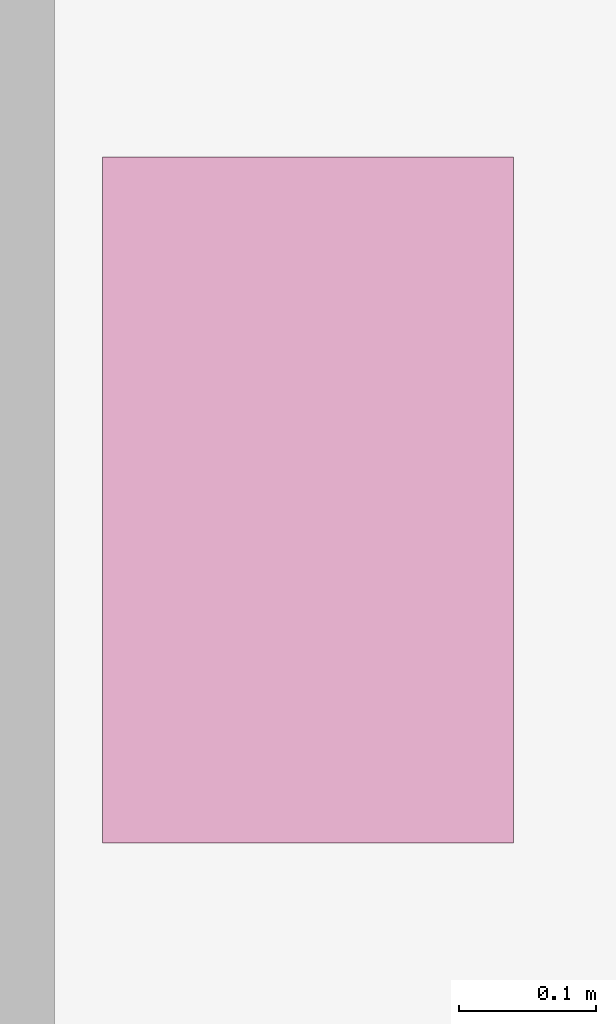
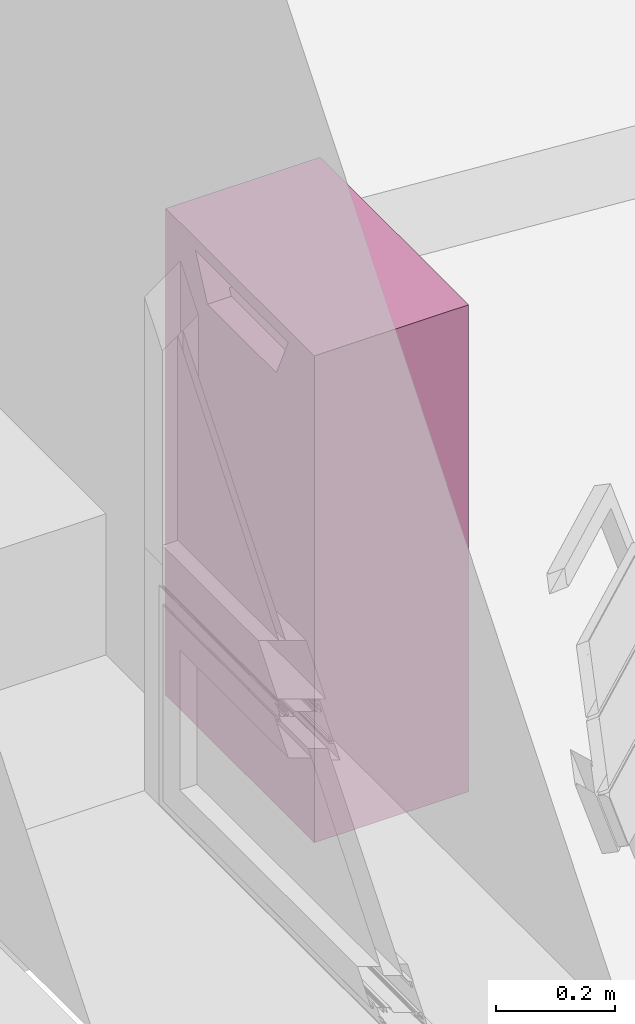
# One storey, part 88 of 88: 1 furnishing.
"""IFC2X3 building model written with IfcOpenShell, lengths in millimetres."""

from ifc_helpers import new_model, entity, si_unit, converted_unit, derived_unit, direction, frame, origin, place, context, subcontext, project, spatial, faceted_brep, source, transform, mapped, material, type_object, type_shapes, element, save


model = new_model("IFC2X3")

# Units and contexts
model_context = context("Model", 3, precision=0.01, world=origin(), true_north=direction((6.123031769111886e-17, 1.0)))
body_context = subcontext(model_context, "Body", "Model", "MODEL_VIEW")
ifc_project = project(units=[si_unit("LENGTHUNIT", "METRE", prefix="MILLI"), si_unit("AREAUNIT", "SQUARE_METRE"), si_unit("VOLUMEUNIT", "CUBIC_METRE"), converted_unit("PLANEANGLEUNIT", "DEGREE", entity("IfcPlaneAngleMeasure", 0.017453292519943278), si_unit("PLANEANGLEUNIT", "RADIAN"), dimensions=[0, 0, 0, 0, 0, 0, 0]), si_unit("MASSUNIT", "GRAM", prefix="KILO"), derived_unit("MASSDENSITYUNIT", [(si_unit("MASSUNIT", "GRAM", prefix="KILO"), 1), (si_unit("LENGTHUNIT", "METRE"), -3)]), derived_unit("IONCONCENTRATIONUNIT", [(si_unit("MASSUNIT", "GRAM", prefix="KILO"), 1), (si_unit("LENGTHUNIT", "METRE"), -3)]), derived_unit("MOMENTOFINERTIAUNIT", [(si_unit("LENGTHUNIT", "METRE"), 4)]), si_unit("TIMEUNIT", "SECOND"), si_unit("FREQUENCYUNIT", "HERTZ"), si_unit("THERMODYNAMICTEMPERATUREUNIT", "DEGREE_CELSIUS"), derived_unit("THERMALTRANSMITTANCEUNIT", [(si_unit("MASSUNIT", "GRAM", prefix="KILO"), 1), (si_unit("THERMODYNAMICTEMPERATUREUNIT", "KELVIN"), -1), (si_unit("TIMEUNIT", "SECOND"), -3)]), derived_unit("THERMALCONDUCTANCEUNIT", [(si_unit("MASSUNIT", "GRAM", prefix="KILO"), 1), (si_unit("THERMODYNAMICTEMPERATUREUNIT", "KELVIN"), -1), (si_unit("TIMEUNIT", "SECOND"), -3), (si_unit("LENGTHUNIT", "METRE"), 1)]), derived_unit("VOLUMETRICFLOWRATEUNIT", [(si_unit("LENGTHUNIT", "METRE", prefix="DECI"), 3), (si_unit("TIMEUNIT", "SECOND"), -1)]), derived_unit("MASSFLOWRATEUNIT", [(si_unit("MASSUNIT", "GRAM", prefix="KILO"), 1), (si_unit("TIMEUNIT", "SECOND"), -1)]), derived_unit("ROTATIONALFREQUENCYUNIT", [(si_unit("TIMEUNIT", "SECOND"), -1)]), si_unit("ELECTRICCURRENTUNIT", "AMPERE"), si_unit("ELECTRICVOLTAGEUNIT", "VOLT"), si_unit("POWERUNIT", "WATT"), si_unit("FORCEUNIT", "NEWTON", prefix="KILO"), si_unit("ILLUMINANCEUNIT", "LUX"), si_unit("LUMINOUSFLUXUNIT", "LUMEN"), si_unit("LUMINOUSINTENSITYUNIT", "CANDELA"), si_unit("ENERGYUNIT", "JOULE"), derived_unit("USERDEFINED", [(si_unit("MASSUNIT", "GRAM", prefix="KILO"), -1), (si_unit("LENGTHUNIT", "METRE"), -2), (si_unit("TIMEUNIT", "SECOND"), 3), (si_unit("LUMINOUSFLUXUNIT", "LUMEN"), 1)]), derived_unit("USERDEFINED", [(si_unit("MASSUNIT", "GRAM", prefix="KILO"), 1), (si_unit("TIMEUNIT", "SECOND"), -3), (si_unit("LENGTHUNIT", "METRE"), 3), (si_unit("ELECTRICCURRENTUNIT", "AMPERE"), -2)]), derived_unit("SOUNDPOWERUNIT", [(si_unit("MASSUNIT", "GRAM", prefix="KILO"), 1), (si_unit("TIMEUNIT", "SECOND"), -3), (si_unit("LENGTHUNIT", "METRE"), 2)]), derived_unit("SOUNDPRESSUREUNIT", [(si_unit("MASSUNIT", "GRAM", prefix="KILO"), 1), (si_unit("LENGTHUNIT", "METRE"), -1), (si_unit("TIMEUNIT", "SECOND"), -2)]), derived_unit("LINEARVELOCITYUNIT", [(si_unit("LENGTHUNIT", "METRE"), 1), (si_unit("TIMEUNIT", "SECOND"), -1)]), si_unit("PRESSUREUNIT", "PASCAL"), derived_unit("USERDEFINED", [(si_unit("MASSUNIT", "GRAM", prefix="KILO"), 1), (si_unit("LENGTHUNIT", "METRE"), -2), (si_unit("TIMEUNIT", "SECOND"), -2)]), derived_unit("LINEARFORCEUNIT", [(si_unit("MASSUNIT", "GRAM", prefix="KILO"), 1), (si_unit("TIMEUNIT", "SECOND"), -2)]), derived_unit("PLANARFORCEUNIT", [(si_unit("MASSUNIT", "GRAM", prefix="KILO"), 1), (si_unit("LENGTHUNIT", "METRE"), -1), (si_unit("TIMEUNIT", "SECOND"), -2)]), derived_unit("SPECIFICHEATCAPACITYUNIT", [(si_unit("THERMODYNAMICTEMPERATUREUNIT", "KELVIN"), -1), (si_unit("LENGTHUNIT", "METRE"), 2), (si_unit("TIMEUNIT", "SECOND"), -2)]), derived_unit("HEATFLUXDENSITYUNIT", [(si_unit("MASSUNIT", "GRAM", prefix="KILO"), 1), (si_unit("TIMEUNIT", "SECOND"), -3)]), derived_unit("HEATINGVALUEUNIT", [(si_unit("LENGTHUNIT", "METRE"), 2), (si_unit("TIMEUNIT", "SECOND"), -2)]), derived_unit("VAPORPERMEABILITYUNIT", [(si_unit("LENGTHUNIT", "METRE"), -1), (si_unit("TIMEUNIT", "SECOND"), 1)]), derived_unit("DYNAMICVISCOSITYUNIT", [(si_unit("MASSUNIT", "GRAM", prefix="KILO"), 1), (si_unit("TIMEUNIT", "SECOND"), -1), (si_unit("LENGTHUNIT", "METRE"), -1)]), derived_unit("THERMALEXPANSIONCOEFFICIENTUNIT", [(si_unit("THERMODYNAMICTEMPERATUREUNIT", "KELVIN"), -1)]), derived_unit("MODULUSOFELASTICITYUNIT", [(si_unit("MASSUNIT", "GRAM", prefix="KILO"), 1), (si_unit("LENGTHUNIT", "METRE"), -1), (si_unit("TIMEUNIT", "SECOND"), -2)]), derived_unit("ISOTHERMALMOISTURECAPACITYUNIT", [(si_unit("MASSUNIT", "GRAM", prefix="KILO"), -1), (si_unit("LENGTHUNIT", "METRE"), 3)]), derived_unit("MOISTUREDIFFUSIVITYUNIT", [(si_unit("TIMEUNIT", "SECOND"), -1), (si_unit("LENGTHUNIT", "METRE"), 2)]), derived_unit("MASSPERLENGTHUNIT", [(si_unit("MASSUNIT", "GRAM", prefix="KILO"), 1), (si_unit("LENGTHUNIT", "METRE"), -1)]), derived_unit("THERMALRESISTANCEUNIT", [(si_unit("MASSUNIT", "GRAM", prefix="KILO"), -1), (si_unit("TIMEUNIT", "SECOND"), 3), (si_unit("THERMODYNAMICTEMPERATUREUNIT", "KELVIN"), 1)]), derived_unit("ACCELERATIONUNIT", [(si_unit("LENGTHUNIT", "METRE"), 1), (si_unit("TIMEUNIT", "SECOND"), -2)]), derived_unit("ANGULARVELOCITYUNIT", [(si_unit("TIMEUNIT", "SECOND"), -1), (si_unit("PLANEANGLEUNIT", "RADIAN"), 1)]), derived_unit("LINEARSTIFFNESSUNIT", [(si_unit("MASSUNIT", "GRAM", prefix="KILO"), 1), (si_unit("TIMEUNIT", "SECOND"), -2)]), derived_unit("WARPINGCONSTANTUNIT", [(si_unit("LENGTHUNIT", "METRE"), 6)]), derived_unit("LINEARMOMENTUNIT", [(si_unit("MASSUNIT", "GRAM", prefix="KILO"), 1), (si_unit("LENGTHUNIT", "METRE"), 1), (si_unit("TIMEUNIT", "SECOND"), -2)]), derived_unit("TORQUEUNIT", [(si_unit("MASSUNIT", "GRAM", prefix="KILO"), 1), (si_unit("LENGTHUNIT", "METRE"), 2), (si_unit("TIMEUNIT", "SECOND"), -2)])], contexts=[model_context])

# Site, building, storey
site_placement = place(None, origin())
site = spatial("IfcSite", under=ifc_project, at=site_placement, Name="Default", CompositionType="ELEMENT")
building_placement = place(site_placement, origin())
building = spatial("IfcBuilding", under=site, at=building_placement, Name="Eesti Rahvusraamatukogu hoone renoveerimise projekteerimistööd", CompositionType="ELEMENT")
storey_placement = place(building_placement, origin())
storey = spatial("IfcBuildingStorey", under=building, at=storey_placement, Name="1. korrus", CompositionType="ELEMENT", Elevation=0.0)

# Furnishing
ifc_material = material(Name="<Unnamed>")
furniture_type = type_object("IfcFurnitureType", Name="MA_Hepta prügikast:MA_Hepta prügikast", AssemblyPlace="NOTDEFINED", material=ifc_material)
shared_shape = source(origin(), body_context, "Body", "Brep", [
    faceted_brep([(500.0, 0.0, 1000.0), (500.0, 300.0, 1000.0), (0.0, 300.0, 1000.0), (0.0, 0.0, 1000.0), (500.0, 0.0, 0.0), (0.0, 0.0, 0.0), (0.0, 300.0, 0.0), (500.0, 300.0, 0.0), (454.6946454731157, 253.49469263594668, 0.0), (54.69464547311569, 253.49469263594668, 0.0), (54.69464547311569, 33.49469263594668, 0.0), (454.6946454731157, 33.49469263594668, 0.0), (400.0066886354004, 300.0, 974.2442508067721), (87.55993279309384, 300.0, 974.2442508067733), (127.77795428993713, 300.0, 887.9964253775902), (359.78866713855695, 300.0, 887.9964253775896), (87.55993279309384, 0.0, 974.2442508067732), (400.00668863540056, 0.0, 974.2442508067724), (359.78866713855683, 0.0, 887.9964253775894), (127.77795428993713, 0.0, 887.9964253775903), (127.7779542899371, 33.49469263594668, 887.9964253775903), (121.36939373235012, 33.49469263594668, 901.7396278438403), (121.36939373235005, 253.49469263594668, 901.7396278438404), (127.77795428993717, 253.49469263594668, 887.9964253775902), (359.78866713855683, 33.49469263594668, 887.9964253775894), (359.78866713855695, 253.49469263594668, 887.9964253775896), (366.19722769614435, 253.49469263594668, 901.7396278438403), (366.1972276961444, 33.49469263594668, 901.7396278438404), (454.6946454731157, 253.49469263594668, 901.7396278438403), (454.6946454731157, 33.49469263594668, 901.7396278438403), (54.69464547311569, 253.49469263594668, 901.7396278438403), (54.69464547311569, 33.49469263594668, 901.7396278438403)], [[[0, 1, 2, 3]], [[4, 5, 6, 7], [8, 9, 10, 11]], [[1, 0, 4, 7]], [[2, 1, 7, 6], [12, 13, 14, 15]], [[3, 2, 6, 5]], [[0, 3, 5, 4], [16, 17, 18, 19]], [[12, 17, 16, 13]], [[13, 16, 19, 20, 21, 22, 23, 14]], [[19, 18, 24, 20]], [[17, 12, 15, 25, 26, 27, 24, 18]], [[28, 29, 27, 26]], [[30, 9, 8, 28, 26, 25, 23, 22]], [[30, 31, 10, 9]], [[10, 31, 21, 20, 24, 27, 29, 11]], [[29, 28, 8, 11]], [[31, 30, 22, 21]], [[15, 14, 23, 25]]]),
])
type_shapes(furniture_type, [shared_shape])
furnishing_placement = place(storey_placement, frame((-42255.0, 48120.376279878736, -300.0), z_axis=(0.0, 0.0, 1.0), x_axis=(0.0, 1.0, 0.0)))
element("IfcFurnishingElement", 1, at=furnishing_placement, inside=storey, type_object=furniture_type, material=ifc_material, Name="MA_Hepta prügikast:MA_Hepta prügikast", ObjectType="MA_Hepta prügikast:MA_Hepta prügikast", context=body_context, shape_type="MappedRepresentation", body=[
    mapped(shared_shape, transform((0.0, 0.0, 0.0), scale=1.0)),
])

save(model, "model.ifc")
